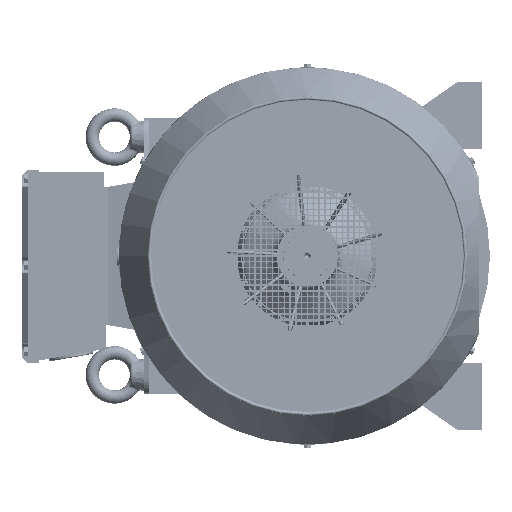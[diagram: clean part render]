
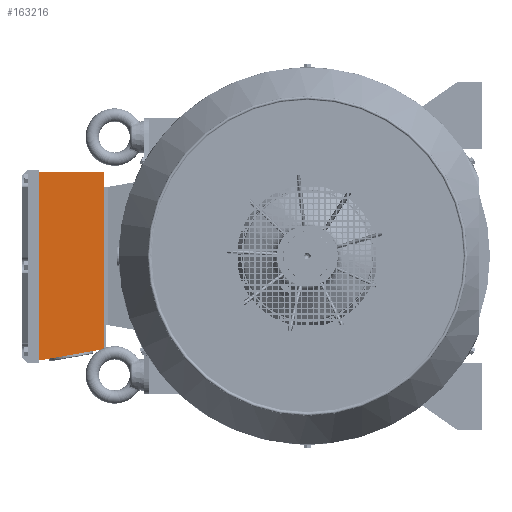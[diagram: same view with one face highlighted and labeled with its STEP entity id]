
A CAD part, left-side view. The second image highlights one B-rep face of the part: STEP entity #163216.
In plain terms, the highlighted planar face has unit normal (-1, 0, 0) as drawn and (0, 0, -1) by its records, which use the part's own axes.
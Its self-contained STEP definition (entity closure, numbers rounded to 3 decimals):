
#4977 = DIRECTION ( 'NONE',  ( 0., -1., 0. ) ) ;
#18175 = VERTEX_POINT ( 'NONE', #174428 ) ;
#18509 = ORIENTED_EDGE ( 'NONE', *, *, #153484, .F. ) ;
#23695 = VECTOR ( 'NONE', #187605, 1000. ) ;
#24295 = CARTESIAN_POINT ( 'NONE',  ( 318.5, 0., -140. ) ) ;
#33773 = DIRECTION ( 'NONE',  ( -1., 0., 0. ) ) ;
#44312 = DIRECTION ( 'NONE',  ( 1., 0., 0. ) ) ;
#49800 = LINE ( 'NONE', #53700, #259898 ) ;
#53700 = CARTESIAN_POINT ( 'NONE',  ( 0., 122., -140. ) ) ;
#54155 = CARTESIAN_POINT ( 'NONE',  ( 0., 3., -140. ) ) ;
#60310 = PLANE ( 'NONE',  #151607 ) ;
#67940 = VERTEX_POINT ( 'NONE', #187963 ) ;
#69404 = LINE ( 'NONE', #24295, #23695 ) ;
#71006 = CARTESIAN_POINT ( 'NONE',  ( 0., 122., -140. ) ) ;
#75398 = LINE ( 'NONE', #54155, #241138 ) ;
#80432 = EDGE_CURVE ( 'NONE', #67940, #137217, #69404, .T. ) ;
#92678 = DIRECTION ( 'NONE',  ( 1., 0., 0. ) ) ;
#100871 = ORIENTED_EDGE ( 'NONE', *, *, #80432, .F. ) ;
#137217 = VERTEX_POINT ( 'NONE', #210616 ) ;
#151607 = AXIS2_PLACEMENT_3D ( 'NONE', #202436, #163835, #44312 ) ;
#153484 = EDGE_CURVE ( 'NONE', #137217, #256927, #49800, .T. ) ;
#163216 = ADVANCED_FACE ( 'NONE', ( #226302 ), #60310, .F. ) ;
#163835 = DIRECTION ( 'NONE',  ( 0., 0., 1. ) ) ;
#164191 = EDGE_CURVE ( 'NONE', #18175, #67940, #75398, .T. ) ;
#167759 = EDGE_CURVE ( 'NONE', #256927, #18175, #242873, .T. ) ;
#174428 = CARTESIAN_POINT ( 'NONE',  ( 0., 3., -140. ) ) ;
#187605 = DIRECTION ( 'NONE',  ( 0.174, 0.985, 0. ) ) ;
#187963 = CARTESIAN_POINT ( 'NONE',  ( 319.029, 3., -140. ) ) ;
#190973 = EDGE_LOOP ( 'NONE', ( #100871, #225024, #240827, #18509 ) ) ;
#202436 = CARTESIAN_POINT ( 'NONE',  ( 26., 122., -140. ) ) ;
#210616 = CARTESIAN_POINT ( 'NONE',  ( 340.012, 122., -140. ) ) ;
#225024 = ORIENTED_EDGE ( 'NONE', *, *, #164191, .F. ) ;
#226302 = FACE_OUTER_BOUND ( 'NONE', #190973, .T. ) ;
#240827 = ORIENTED_EDGE ( 'NONE', *, *, #167759, .F. ) ;
#241138 = VECTOR ( 'NONE', #92678, 1000. ) ;
#241846 = VECTOR ( 'NONE', #4977, 1000. ) ;
#242873 = LINE ( 'NONE', #246790, #241846 ) ;
#246790 = CARTESIAN_POINT ( 'NONE',  ( 0., 3., -140. ) ) ;
#256927 = VERTEX_POINT ( 'NONE', #71006 ) ;
#259898 = VECTOR ( 'NONE', #33773, 1000. ) ;
